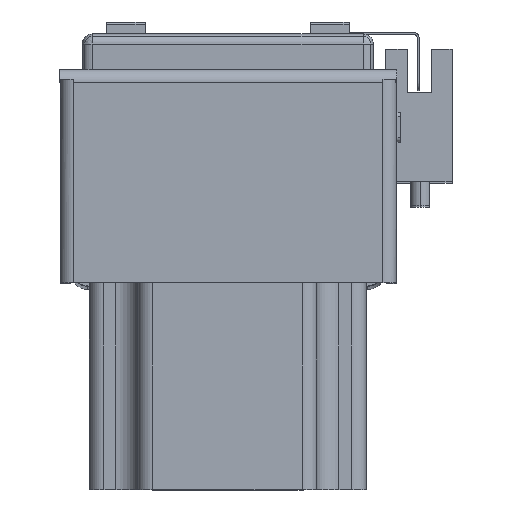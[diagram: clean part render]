
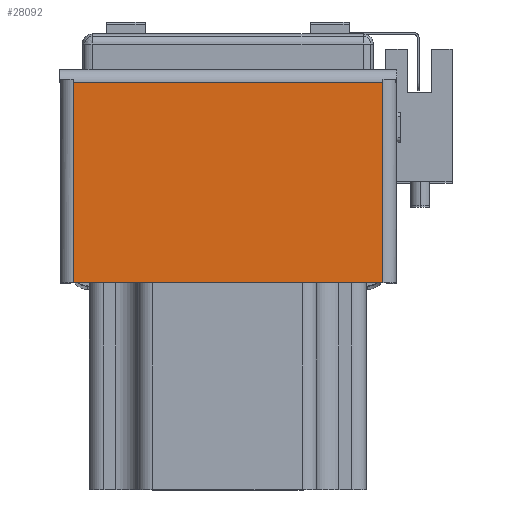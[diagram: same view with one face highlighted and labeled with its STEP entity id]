
A CAD part, top view. The second image highlights one B-rep face of the part: STEP entity #28092.
In plain terms, the highlighted planar face has unit normal (0, 0, 1) as drawn and (1, 0, 0) by its records, which use the part's own axes.
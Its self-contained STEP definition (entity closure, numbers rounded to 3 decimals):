
#2507 = DIRECTION ( 'NONE',  ( 0., 0., 1. ) ) ;
#2518 = DIRECTION ( 'NONE',  ( -1., 0., 0. ) ) ;
#2529 = PLANE ( 'NONE',  #12732 ) ;
#2530 = CARTESIAN_POINT ( 'NONE',  ( 2., 42., -32.6 ) ) ;
#7537 = CARTESIAN_POINT ( 'NONE',  ( 2., 0., 31.863 ) ) ;
#7541 = CARTESIAN_POINT ( 'NONE',  ( 2., 41.263, -31.863 ) ) ;
#7552 = CARTESIAN_POINT ( 'NONE',  ( 2., 0., -31.863 ) ) ;
#7637 = CARTESIAN_POINT ( 'NONE',  ( 2., 41.263, 31.863 ) ) ;
#12732 = AXIS2_PLACEMENT_3D ( 'NONE', #2530, #2518, #2507 ) ;
#16008 = FACE_OUTER_BOUND ( 'NONE', #21285, .T. ) ;
#21285 = EDGE_LOOP ( 'NONE', ( #23787, #23774, #23792, #23779 ) ) ;
#23774 = ORIENTED_EDGE ( 'NONE', *, *, #30288, .T. ) ;
#23779 = ORIENTED_EDGE ( 'NONE', *, *, #30313, .F. ) ;
#23787 = ORIENTED_EDGE ( 'NONE', *, *, #30348, .T. ) ;
#23792 = ORIENTED_EDGE ( 'NONE', *, *, #30443, .T. ) ;
#24889 = VERTEX_POINT ( 'NONE', #7552 ) ;
#24899 = VERTEX_POINT ( 'NONE', #7537 ) ;
#24933 = VERTEX_POINT ( 'NONE', #7541 ) ;
#24993 = VERTEX_POINT ( 'NONE', #7637 ) ;
#27380 = DIRECTION ( 'NONE',  ( 0., -1., 0. ) ) ;
#27417 = CARTESIAN_POINT ( 'NONE',  ( 2., 42., 31.863 ) ) ;
#27453 = CARTESIAN_POINT ( 'NONE',  ( 2., 42., -31.863 ) ) ;
#27454 = DIRECTION ( 'NONE',  ( 0., -1., 0. ) ) ;
#27550 = CARTESIAN_POINT ( 'NONE',  ( 2., 41.263, -31.863 ) ) ;
#27552 = DIRECTION ( 'NONE',  ( 0., 0., 1. ) ) ;
#27787 = DIRECTION ( 'NONE',  ( 0., 0., -1. ) ) ;
#27793 = CARTESIAN_POINT ( 'NONE',  ( 2., 0., -32.6 ) ) ;
#28092 = ADVANCED_FACE ( 'NONE', ( #16008 ), #2529, .F. ) ;
#30288 = EDGE_CURVE ( 'NONE', #24993, #24899, #31873, .T. ) ;
#30313 = EDGE_CURVE ( 'NONE', #24933, #24889, #31953, .T. ) ;
#30348 = EDGE_CURVE ( 'NONE', #24933, #24993, #31988, .T. ) ;
#30443 = EDGE_CURVE ( 'NONE', #24899, #24889, #32360, .T. ) ;
#31873 = LINE ( 'NONE', #27417, #31881 ) ;
#31881 = VECTOR ( 'NONE', #27380, 1000. ) ;
#31942 = VECTOR ( 'NONE', #27454, 1000. ) ;
#31953 = LINE ( 'NONE', #27453, #31942 ) ;
#31988 = LINE ( 'NONE', #27550, #32002 ) ;
#32002 = VECTOR ( 'NONE', #27552, 1000. ) ;
#32325 = VECTOR ( 'NONE', #27787, 1000. ) ;
#32360 = LINE ( 'NONE', #27793, #32325 ) ;
